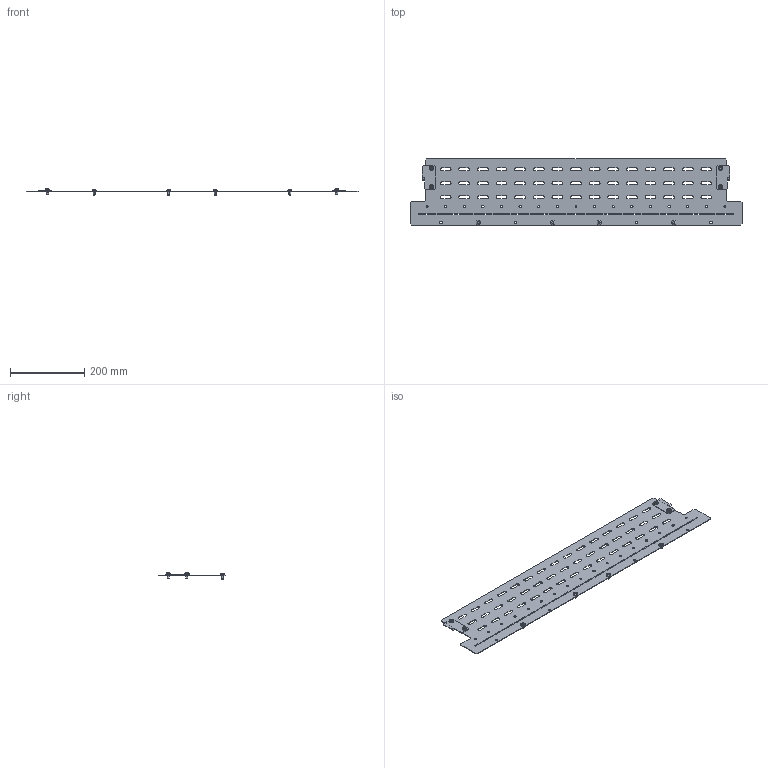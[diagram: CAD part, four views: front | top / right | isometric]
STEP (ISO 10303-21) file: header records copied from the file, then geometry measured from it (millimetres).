
FILE_DESCRIPTION (( 'STEP AP214' ), '1' );
FILE_NAME ('FO-00-SWVR-100 Ïåðåãîðîäêà ñåêöèîíèðîâàíèÿ âåðòèêàëüíàÿ êðûøè 1000 ìì IP31.STEP', '2025-08-12T14:16:29', ( '' ), ( '' ), 'SwSTEP 2.0', 'SolidWorks 2023', '' );
FILE_SCHEMA (( 'AUTOMOTIVE_DESIGN' ));
Length unit declared in the file: millimetre
Products named in the file (1): FO-00-SWVR-100 Перегородка секционирования вертикальная крыши 1000 мм IP31
Bounding box: 891.5 x 177.68 x 16.5 mm (x, y, z)
Volume: 215217.6 mm3; surface area: 288919.5 mm2
Topology: 1 solids, 1 shells, 604 faces, 1692 edges, 1102 vertices
Faces by surface type: cylinder 308, plane 240, cone 24, torus 24, sphere 8
Entity records: 20097 total; most frequent: CARTESIAN_POINT 3667, DIRECTION 3500, ORIENTED_EDGE 3384, EDGE_CURVE 1692, AXIS2_PLACEMENT_3D 1271, VERTEX_POINT 1102, LINE 958, VECTOR 958
